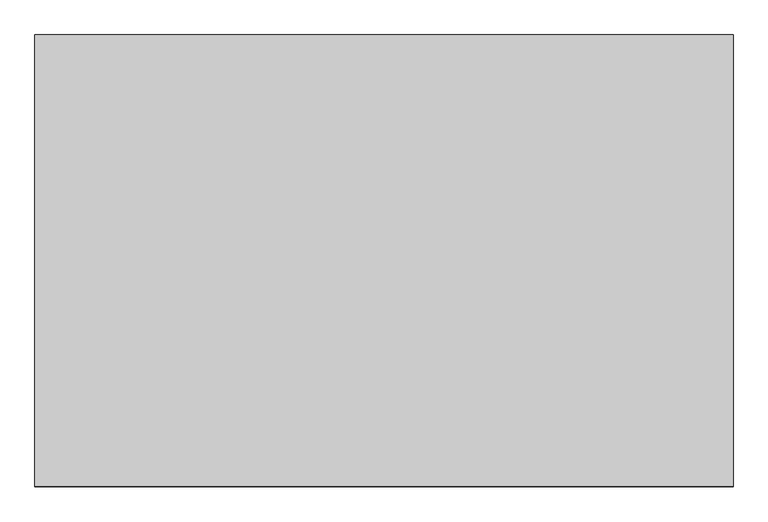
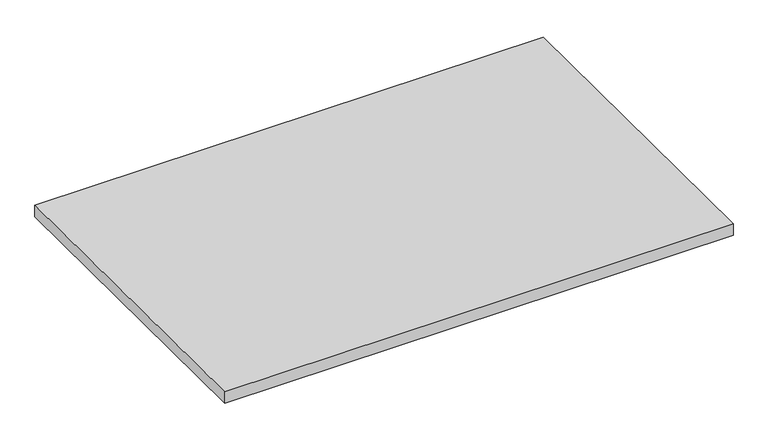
"""IFC4 building model written with IfcOpenShell, lengths in millimetres: proxy geometry, lastra tralicciata_inclinata_senza alleggerimenti : lastra tralicciata_inclinata_due_rompitratta."""

from ifc_helpers import new_model, si_unit, frame, origin, place, context, project, spatial, polyline, outline, extrude, source, transform, mapped, element, save


def generic_models_97837bbf(model_context):
    return source(origin(), model_context, "Body", "SweptSolid", [
        extrude(outline(polyline([(0.0, -1080.0), (0.0, 0.0), (1668.6, 0.0), (1668.6, -1080.0), (0.0, -1080.0)])), frame((0.0, 539.9868406, -3.7698806), z_axis=(0.0, 0.006981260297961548, 0.9999756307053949), x_axis=(1.0, 0.0, 0.0)), (0.0, 0.0, 1.0), 40.0),
    ])


if __name__ == "__main__":
    model = new_model("IFC4")
    model_context = context("Model", 3, world=origin())
    ifc_project = project(units=[si_unit("LENGTHUNIT", "METRE", prefix="MILLI")], contexts=[model_context])
    site = spatial("IfcSite", under=ifc_project)
    building = spatial("IfcBuilding", under=site)
    placement = place(None, origin())
    generic_models_shape = generic_models_97837bbf(model_context)
    element("IfcBuildingElementProxy", 1, Name="lastra tralicciata_inclinata_senza alleggerimenti : lastra tralicciata_inclinata_due_rompitratta", ObjectType="lastra tralicciata_inclinata_senza alleggerimenti : lastra tralicciata_inclinata_due_rompitratta", at=placement, inside=building, context=model_context, shape_type="MappedRepresentation", body=[
        mapped(generic_models_shape, transform((0.0, 0.0, 0.0), x_axis=(1.0, 0.0, 0.0), y_axis=(0.0, 1.0, 0.0), z_axis=(0.0, 0.0, 1.0))),
    ])
    save(model, "model.ifc")
